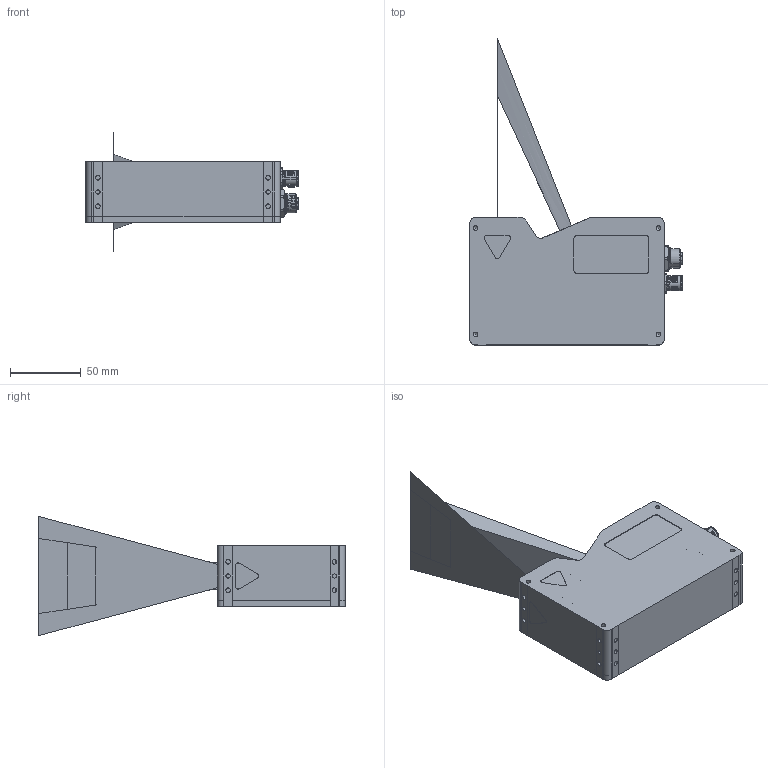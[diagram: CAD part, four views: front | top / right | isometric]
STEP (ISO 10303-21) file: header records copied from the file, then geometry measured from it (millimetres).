
FILE_DESCRIPTION(/* description */ (''),/* implementation_level */ '2;1');
FILE_NAME(/* name */ 'C6-S7-1280-CS-23-47-106-SX-1G-XXX-XX_Public.iam.stp',/* time_stamp */ '2025-06-11T08:28:31+02:00',/* author */ ('AT'),/* organization */ ('Automation Technology GmbH'),/* preprocessor_version */ 'ST-DEVELOPER v20',/* originating_system */ 'Autodesk Inventor 2024',/* authorisation */ '');
FILE_SCHEMA (('AUTOMOTIVE_DESIGN { 1 0 10303 214 3 1 1 }'));
Products named in the file (20): C6-S7-1280-CS-23-47-106-SX-1G-XXX-XX_Public; Screw GB/T 2672 M2,5 x 4; Screw GB/T 2672 M2,5 x 6; 202202010-028; 202202010-002; 202202010-009; 202202010-010; EO: 48-924; Glasscheibe33x1; C6-S7-1280-CS-23-47-106-SX-1G-XXX-XX_Strahlengang; 1292.6001; SACC-DSI-FS-8CON-L180_SCO SH_1553860-01; SACC-DSI-FS-8CON-L180_SCO SH_1553860_Stecker; SACC-DSI-FS-8CON-L180_SCO SH_1553860_Mutter; SACC-DSI-FS-8CON-L180_SCO SH_1553860_Kunststoffeinsatz; SACC-DSI-MS-17CON-M12 SCO SH_1437119-01; SACC-DSI-MS-17CON-M12 SCO SH_1437119_Stecker; SACC-DSI-MS-17CON-M12 SCO SH_1437119_Mutter; SACC-DSI-MS-17CON-M12 SCO SH_1437119_Pins; SACC-DSI-MS-17CON-M12 SCO SH_1437119_Kunststoffeinsatz
Assembly tree (36 placements, depth 3):
  C6-S7-1280-CS-23-47-106-SX-1G-XXX-XX_Public
    Screw GB/T 2672 M2,5 x 4  x8
    Screw GB/T 2672 M2,5 x 6  x7
    202202010-028
    202202010-002
    202202010-009
    202202010-010
    EO: 48-924
    Glasscheibe33x1
    C6-S7-1280-CS-23-47-106-SX-1G-XXX-XX_Strahlengang
    1292.6001  x5
    SACC-DSI-FS-8CON-L180_SCO SH_1553860-01
      SACC-DSI-FS-8CON-L180_SCO SH_1553860_Stecker
      SACC-DSI-FS-8CON-L180_SCO SH_1553860_Mutter
      SACC-DSI-FS-8CON-L180_SCO SH_1553860_Kunststoffeinsatz
    SACC-DSI-MS-17CON-M12 SCO SH_1437119-01
      SACC-DSI-MS-17CON-M12 SCO SH_1437119_Stecker
      SACC-DSI-MS-17CON-M12 SCO SH_1437119_Mutter
      SACC-DSI-MS-17CON-M12 SCO SH_1437119_Pins
      SACC-DSI-MS-17CON-M12 SCO SH_1437119_Kunststoffeinsatz
Bounding box: 149.9 x 216.1 x 84.13 mm (x, y, z)
Volume: 199936.8 mm3; surface area: 126588.3 mm2
Topology: 51 solids, 52 shells, 2268 faces, 5438 edges, 3385 vertices
Faces by surface type: cylinder 950, plane 880, bspline 181, cone 123, torus 85, sphere 49
Full cylindrical faces by diameter (mm): 0.217 x1, 0.6 x25, 0.63 x34, 0.9 x8, 1 x10, 1.1 x17, 1.2 x17, 1.5 x5, 1.567 x7, 1.6 x5, 2 x15, 2.013 x36, 2.208 x15, 2.4 x15, 2.5 x15, 2.6 x12, 2.8 x8, 3 x4, 3.242 x12, 5 x15, 5.5 x15, 7.7 x1, 8.25 x2, 8.3 x1, 8.7 x1, 10.5 x1, 10.7 x3, 10.917 x2, 12 x1, 12.2 x1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
Entity records: 86611 total; most frequent: CARTESIAN_POINT 45537, ORIENTED_EDGE 8184, DIRECTION 8085, EDGE_CURVE 4094, AXIS2_PLACEMENT_3D 2963, VERTEX_POINT 2702, LINE 2159, VECTOR 2159
